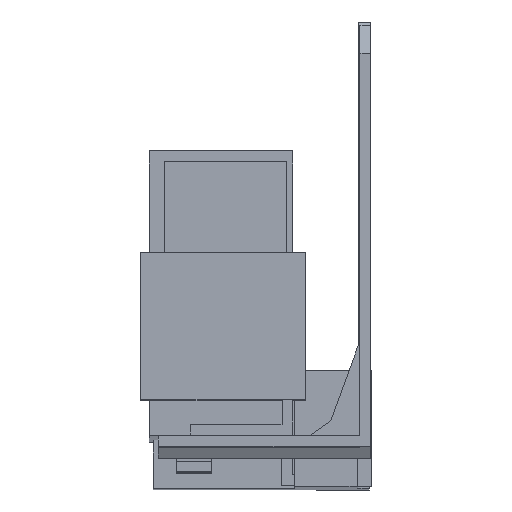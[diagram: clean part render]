
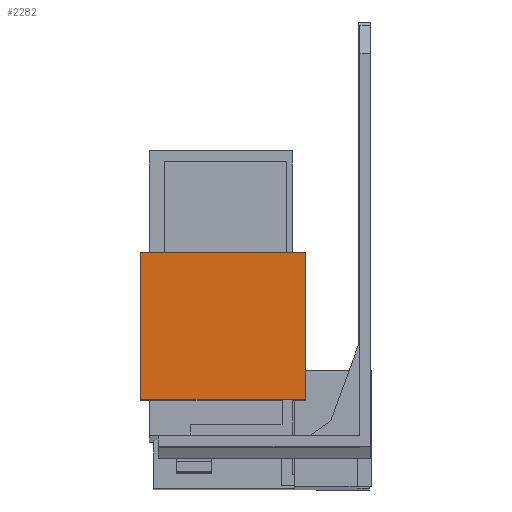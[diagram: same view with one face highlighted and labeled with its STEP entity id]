
A CAD part, front view. The second image highlights one B-rep face of the part: STEP entity #2282.
In plain terms, the highlighted planar face has unit normal (0, -1, 0.003).
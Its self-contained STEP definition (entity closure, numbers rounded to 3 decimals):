
#16 = VECTOR ( 'NONE', #2687, 1000. ) ;
#21 = LINE ( 'NONE', #2684, #16 ) ;
#292 = DIRECTION ( 'NONE',  ( 0., -1., 0.003 ) ) ;
#293 = CARTESIAN_POINT ( 'NONE',  ( -9.3, -29.009, -40.322 ) ) ;
#294 = DIRECTION ( 'NONE',  ( 1., 0., 0. ) ) ;
#303 = PLANE ( 'NONE',  #4183 ) ;
#829 = CARTESIAN_POINT ( 'NONE',  ( -32.7, -28.952, -19.322 ) ) ;
#834 = CARTESIAN_POINT ( 'NONE',  ( -9.3, -28.952, -19.322 ) ) ;
#837 = CARTESIAN_POINT ( 'NONE',  ( -32.7, -29.009, -40.322 ) ) ;
#848 = CARTESIAN_POINT ( 'NONE',  ( -9.3, -29.009, -40.322 ) ) ;
#1055 = VERTEX_POINT ( 'NONE', #848 ) ;
#1063 = VERTEX_POINT ( 'NONE', #837 ) ;
#1065 = VERTEX_POINT ( 'NONE', #834 ) ;
#1071 = VERTEX_POINT ( 'NONE', #829 ) ;
#1278 = FACE_OUTER_BOUND ( 'NONE', #2134, .T. ) ;
#1842 = ORIENTED_EDGE ( 'NONE', *, *, #4549, .T. ) ;
#1843 = ORIENTED_EDGE ( 'NONE', *, *, #4482, .F. ) ;
#1844 = ORIENTED_EDGE ( 'NONE', *, *, #3633, .F. ) ;
#1845 = ORIENTED_EDGE ( 'NONE', *, *, #3717, .T. ) ;
#2134 = EDGE_LOOP ( 'NONE', ( #1842, #1843, #1844, #1845 ) ) ;
#2282 = ADVANCED_FACE ( 'NONE', ( #1278 ), #303, .T. ) ;
#2684 = CARTESIAN_POINT ( 'NONE',  ( -9.3, -29.009, -40.322 ) ) ;
#2687 = DIRECTION ( 'NONE',  ( -1., 0., 0. ) ) ;
#2791 = CARTESIAN_POINT ( 'NONE',  ( -9.3, -29.009, -40.322 ) ) ;
#2797 = DIRECTION ( 'NONE',  ( 0., 0.003, 1. ) ) ;
#3151 = CARTESIAN_POINT ( 'NONE',  ( -32.7, -29.009, -40.322 ) ) ;
#3152 = DIRECTION ( 'NONE',  ( 0., 0.003, 1. ) ) ;
#3233 = CARTESIAN_POINT ( 'NONE',  ( -9.3, -28.952, -19.322 ) ) ;
#3234 = DIRECTION ( 'NONE',  ( -1., 0., 0. ) ) ;
#3633 = EDGE_CURVE ( 'NONE', #1055, #1063, #21, .T. ) ;
#3717 = EDGE_CURVE ( 'NONE', #1055, #1065, #4027, .T. ) ;
#3890 = VECTOR ( 'NONE', #3234, 1000. ) ;
#3893 = LINE ( 'NONE', #3233, #3890 ) ;
#4024 = VECTOR ( 'NONE', #2797, 1000. ) ;
#4027 = LINE ( 'NONE', #2791, #4024 ) ;
#4183 = AXIS2_PLACEMENT_3D ( 'NONE', #293, #292, #294 ) ;
#4468 = LINE ( 'NONE', #3151, #4469 ) ;
#4469 = VECTOR ( 'NONE', #3152, 1000. ) ;
#4482 = EDGE_CURVE ( 'NONE', #1063, #1071, #4468, .T. ) ;
#4549 = EDGE_CURVE ( 'NONE', #1065, #1071, #3893, .T. ) ;
